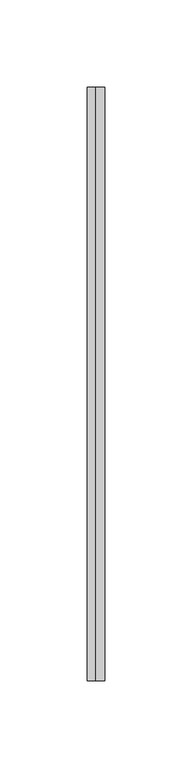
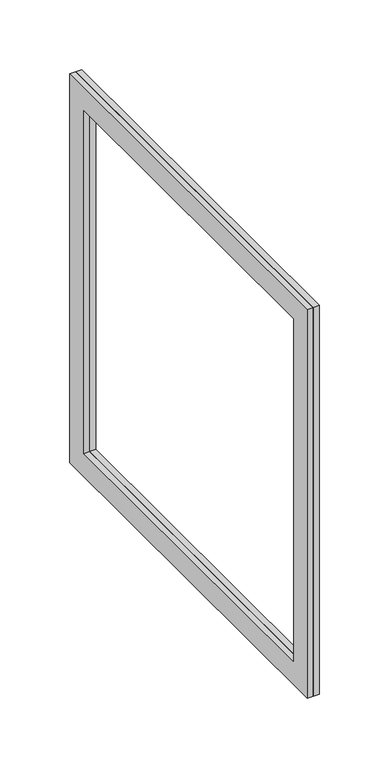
"""IFC4 building model written with IfcOpenShell, lengths in millimetres: duct fitting geometry, BL_ФланецВоздуховдов-Двойной_Прямоугольный_БезКоннекторов : BL_ФланецВоздуховдов-Двойной_Прямоугольный_БезКоннекторов."""

from ifc_helpers import new_model, si_unit, frame, origin, place, context, project, spatial, polyline, outline, extrude, source, transform, mapped, element, save


def duct_fitting_a3a79c44(model_context):
    return source(origin(), model_context, "Body", "SweptSolid", [
        extrude(outline(polyline([(215.6742229, 170.0), (215.6742229, -170.0), (-124.3257771, -170.0), (-124.3257771, 170.0), (215.6742229, 170.0)]), holes=[polyline([(195.6742229, 150.0), (-104.3257771, 150.0), (-104.3257771, -150.0), (195.6742229, -150.0), (195.6742229, 150.0)])]), frame((0.0, 0.0, 0.0), z_axis=(1.0, 0.0, 0.0), x_axis=(0.0, 1.0, 0.0)), (0.0, 0.0, 1.0), 5.0),
        extrude(outline(polyline([(215.6742229, 170.0), (215.6742229, -170.0), (-124.3257771, -170.0), (-124.3257771, 170.0), (215.6742229, 170.0)]), holes=[polyline([(-104.3257771, 150.0), (-104.3257771, -150.0), (195.6742229, -150.0), (195.6742229, 150.0), (-104.3257771, 150.0)])]), frame((-5.0, 0.0, 0.0), z_axis=(1.0, 0.0, 0.0), x_axis=(0.0, 1.0, 0.0)), (0.0, 0.0, 1.0), 5.0),
    ])


if __name__ == "__main__":
    model = new_model("IFC4")
    model_context = context("Model", 3, world=origin())
    ifc_project = project(units=[si_unit("LENGTHUNIT", "METRE", prefix="MILLI")], contexts=[model_context])
    site = spatial("IfcSite", under=ifc_project)
    building = spatial("IfcBuilding", under=site)
    placement = place(None, origin())
    duct_fitting_shape = duct_fitting_a3a79c44(model_context)
    element("IfcDuctFitting", 1, ObjectType="BL_ФланецВоздуховдов-Двойной_Прямоугольный_БезКоннекторов : BL_ФланецВоздуховдов-Двойной_Прямоугольный_БезКоннекторов", at=placement, inside=building, context=model_context, shape_type="MappedRepresentation", body=[
        mapped(duct_fitting_shape, transform((0.0, 0.0, 0.0), x_axis=(1.0, 0.0, 0.0), y_axis=(0.0, 1.0, 0.0), z_axis=(0.0, 0.0, 1.0))),
    ])
    save(model, "model.ifc")
